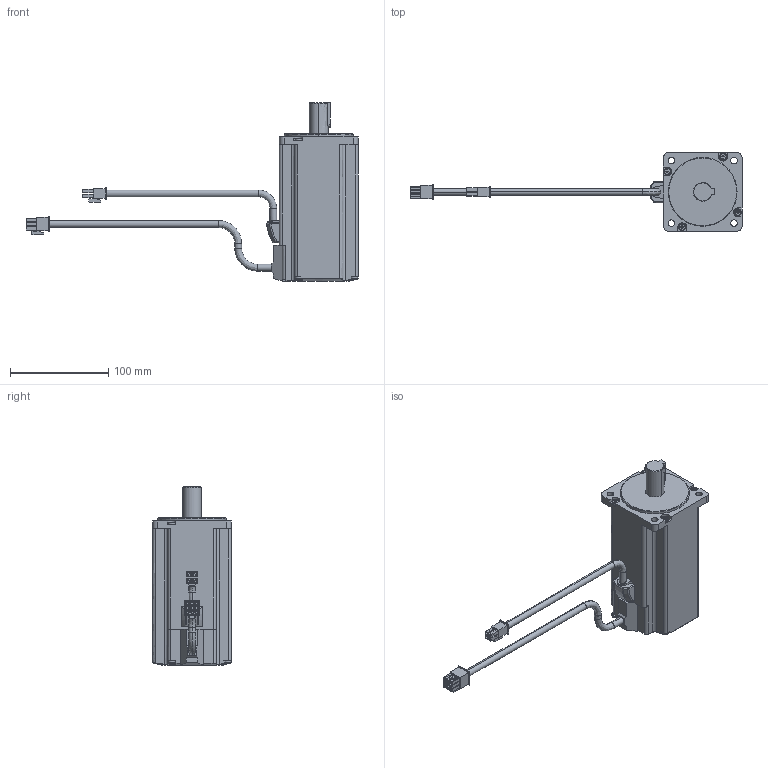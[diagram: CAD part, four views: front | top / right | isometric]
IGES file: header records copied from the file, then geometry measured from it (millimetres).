
Start section:  PTC IGES file: RSMZ-08BA3xS.igs
Global section: file name: RSMZ-08BA3xS.igs; native system: Pro/ENGINEER by Parametric Technology Corporation; preprocessor: 2004440; author: Administrator; organization: Unknown; date: 070904.190410; units: millimetre
Bounding box: 337.7 x 80 x 182 mm (x, y, z)
Volume: 849441.1 mm3; surface area: 77102.6 mm2
Topology: 1 solids, 1 shells, 462 faces, 1172 edges, 760 vertices
Faces by surface type: bspline 332, revolution 130
